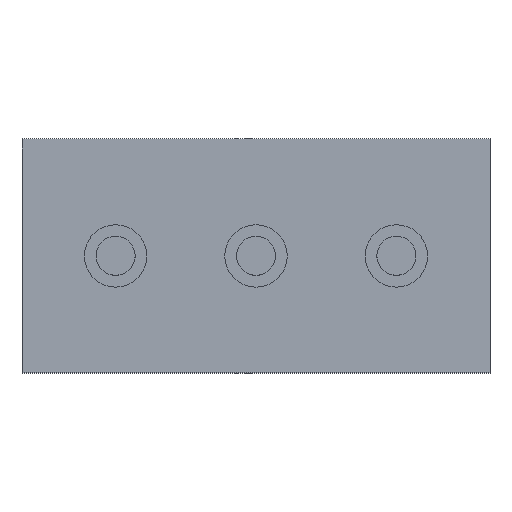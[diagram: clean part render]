
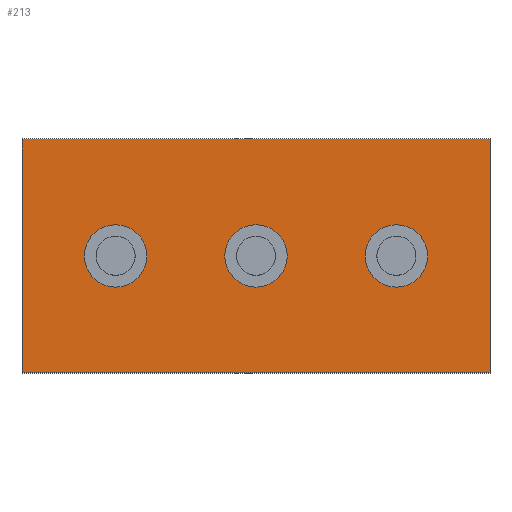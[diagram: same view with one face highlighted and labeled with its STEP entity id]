
A CAD part, top view. The second image highlights one B-rep face of the part: STEP entity #213.
In plain terms, the highlighted planar face has unit normal (0, 0, 1).
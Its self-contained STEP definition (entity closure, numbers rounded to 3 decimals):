
#24 = VERTEX_POINT('',#25);
#25 = CARTESIAN_POINT('',(0.,0.,6.));
#32 = PLANE('',#33);
#33 = AXIS2_PLACEMENT_3D('',#34,#35,#36);
#34 = CARTESIAN_POINT('',(0.,0.,0.));
#35 = DIRECTION('',(1.,0.,-0.));
#36 = DIRECTION('',(0.,0.,1.));
#44 = PLANE('',#45);
#45 = AXIS2_PLACEMENT_3D('',#46,#47,#48);
#46 = CARTESIAN_POINT('',(0.,0.,0.));
#47 = DIRECTION('',(-0.,1.,0.));
#48 = DIRECTION('',(0.,0.,1.));
#85 = VERTEX_POINT('',#86);
#86 = CARTESIAN_POINT('',(0.,30.,6.));
#100 = PLANE('',#101);
#101 = AXIS2_PLACEMENT_3D('',#102,#103,#104);
#102 = CARTESIAN_POINT('',(0.,30.,0.));
#103 = DIRECTION('',(-0.,1.,0.));
#104 = DIRECTION('',(0.,0.,1.));
#112 = EDGE_CURVE('',#24,#85,#113,.T.);
#113 = SURFACE_CURVE('',#114,(#118,#125),.PCURVE_S1.);
#114 = LINE('',#115,#116);
#115 = CARTESIAN_POINT('',(0.,0.,6.));
#116 = VECTOR('',#117,1.);
#117 = DIRECTION('',(-0.,1.,0.));
#118 = PCURVE('',#32,#119);
#119 = DEFINITIONAL_REPRESENTATION('',(#120),#124);
#120 = LINE('',#121,#122);
#121 = CARTESIAN_POINT('',(6.,0.));
#122 = VECTOR('',#123,1.);
#123 = DIRECTION('',(0.,-1.));
#124 = ( GEOMETRIC_REPRESENTATION_CONTEXT(2) 
PARAMETRIC_REPRESENTATION_CONTEXT() REPRESENTATION_CONTEXT('2D SPACE',''
  ) );
#125 = PCURVE('',#126,#131);
#126 = PLANE('',#127);
#127 = AXIS2_PLACEMENT_3D('',#128,#129,#130);
#128 = CARTESIAN_POINT('',(0.,0.,6.));
#129 = DIRECTION('',(0.,0.,1.));
#130 = DIRECTION('',(1.,0.,-0.));
#131 = DEFINITIONAL_REPRESENTATION('',(#132),#136);
#132 = LINE('',#133,#134);
#133 = CARTESIAN_POINT('',(0.,0.));
#134 = VECTOR('',#135,1.);
#135 = DIRECTION('',(0.,1.));
#136 = ( GEOMETRIC_REPRESENTATION_CONTEXT(2) 
PARAMETRIC_REPRESENTATION_CONTEXT() REPRESENTATION_CONTEXT('2D SPACE',''
  ) );
#165 = EDGE_CURVE('',#24,#166,#168,.T.);
#166 = VERTEX_POINT('',#167);
#167 = CARTESIAN_POINT('',(60.,0.,6.));
#168 = SURFACE_CURVE('',#169,(#173,#180),.PCURVE_S1.);
#169 = LINE('',#170,#171);
#170 = CARTESIAN_POINT('',(0.,0.,6.));
#171 = VECTOR('',#172,1.);
#172 = DIRECTION('',(1.,0.,-0.));
#173 = PCURVE('',#44,#174);
#174 = DEFINITIONAL_REPRESENTATION('',(#175),#179);
#175 = LINE('',#176,#177);
#176 = CARTESIAN_POINT('',(6.,0.));
#177 = VECTOR('',#178,1.);
#178 = DIRECTION('',(0.,1.));
#179 = ( GEOMETRIC_REPRESENTATION_CONTEXT(2) 
PARAMETRIC_REPRESENTATION_CONTEXT() REPRESENTATION_CONTEXT('2D SPACE',''
  ) );
#180 = PCURVE('',#126,#181);
#181 = DEFINITIONAL_REPRESENTATION('',(#182),#186);
#182 = LINE('',#183,#184);
#183 = CARTESIAN_POINT('',(0.,0.));
#184 = VECTOR('',#185,1.);
#185 = DIRECTION('',(1.,0.));
#186 = ( GEOMETRIC_REPRESENTATION_CONTEXT(2) 
PARAMETRIC_REPRESENTATION_CONTEXT() REPRESENTATION_CONTEXT('2D SPACE',''
  ) );
#202 = PLANE('',#203);
#203 = AXIS2_PLACEMENT_3D('',#204,#205,#206);
#204 = CARTESIAN_POINT('',(60.,0.,0.));
#205 = DIRECTION('',(1.,0.,-0.));
#206 = DIRECTION('',(0.,0.,1.));
#213 = ADVANCED_FACE('',(#214,#262,#293,#324),#126,.T.);
#214 = FACE_BOUND('',#215,.T.);
#215 = EDGE_LOOP('',(#216,#217,#218,#241));
#216 = ORIENTED_EDGE('',*,*,#112,.F.);
#217 = ORIENTED_EDGE('',*,*,#165,.T.);
#218 = ORIENTED_EDGE('',*,*,#219,.T.);
#219 = EDGE_CURVE('',#166,#220,#222,.T.);
#220 = VERTEX_POINT('',#221);
#221 = CARTESIAN_POINT('',(60.,30.,6.));
#222 = SURFACE_CURVE('',#223,(#227,#234),.PCURVE_S1.);
#223 = LINE('',#224,#225);
#224 = CARTESIAN_POINT('',(60.,0.,6.));
#225 = VECTOR('',#226,1.);
#226 = DIRECTION('',(-0.,1.,0.));
#227 = PCURVE('',#126,#228);
#228 = DEFINITIONAL_REPRESENTATION('',(#229),#233);
#229 = LINE('',#230,#231);
#230 = CARTESIAN_POINT('',(60.,0.));
#231 = VECTOR('',#232,1.);
#232 = DIRECTION('',(0.,1.));
#233 = ( GEOMETRIC_REPRESENTATION_CONTEXT(2) 
PARAMETRIC_REPRESENTATION_CONTEXT() REPRESENTATION_CONTEXT('2D SPACE',''
  ) );
#234 = PCURVE('',#202,#235);
#235 = DEFINITIONAL_REPRESENTATION('',(#236),#240);
#236 = LINE('',#237,#238);
#237 = CARTESIAN_POINT('',(6.,0.));
#238 = VECTOR('',#239,1.);
#239 = DIRECTION('',(0.,-1.));
#240 = ( GEOMETRIC_REPRESENTATION_CONTEXT(2) 
PARAMETRIC_REPRESENTATION_CONTEXT() REPRESENTATION_CONTEXT('2D SPACE',''
  ) );
#241 = ORIENTED_EDGE('',*,*,#242,.F.);
#242 = EDGE_CURVE('',#85,#220,#243,.T.);
#243 = SURFACE_CURVE('',#244,(#248,#255),.PCURVE_S1.);
#244 = LINE('',#245,#246);
#245 = CARTESIAN_POINT('',(0.,30.,6.));
#246 = VECTOR('',#247,1.);
#247 = DIRECTION('',(1.,0.,-0.));
#248 = PCURVE('',#126,#249);
#249 = DEFINITIONAL_REPRESENTATION('',(#250),#254);
#250 = LINE('',#251,#252);
#251 = CARTESIAN_POINT('',(0.,30.));
#252 = VECTOR('',#253,1.);
#253 = DIRECTION('',(1.,0.));
#254 = ( GEOMETRIC_REPRESENTATION_CONTEXT(2) 
PARAMETRIC_REPRESENTATION_CONTEXT() REPRESENTATION_CONTEXT('2D SPACE',''
  ) );
#255 = PCURVE('',#100,#256);
#256 = DEFINITIONAL_REPRESENTATION('',(#257),#261);
#257 = LINE('',#258,#259);
#258 = CARTESIAN_POINT('',(6.,0.));
#259 = VECTOR('',#260,1.);
#260 = DIRECTION('',(0.,1.));
#261 = ( GEOMETRIC_REPRESENTATION_CONTEXT(2) 
PARAMETRIC_REPRESENTATION_CONTEXT() REPRESENTATION_CONTEXT('2D SPACE',''
  ) );
#262 = FACE_BOUND('',#263,.T.);
#263 = EDGE_LOOP('',(#264));
#264 = ORIENTED_EDGE('',*,*,#265,.F.);
#265 = EDGE_CURVE('',#266,#266,#268,.T.);
#266 = VERTEX_POINT('',#267);
#267 = CARTESIAN_POINT('',(16.,15.,6.));
#268 = SURFACE_CURVE('',#269,(#274,#281),.PCURVE_S1.);
#269 = CIRCLE('',#270,4.);
#270 = AXIS2_PLACEMENT_3D('',#271,#272,#273);
#271 = CARTESIAN_POINT('',(12.,15.,6.));
#272 = DIRECTION('',(0.,0.,1.));
#273 = DIRECTION('',(1.,0.,-0.));
#274 = PCURVE('',#126,#275);
#275 = DEFINITIONAL_REPRESENTATION('',(#276),#280);
#276 = CIRCLE('',#277,4.);
#277 = AXIS2_PLACEMENT_2D('',#278,#279);
#278 = CARTESIAN_POINT('',(12.,15.));
#279 = DIRECTION('',(1.,0.));
#280 = ( GEOMETRIC_REPRESENTATION_CONTEXT(2) 
PARAMETRIC_REPRESENTATION_CONTEXT() REPRESENTATION_CONTEXT('2D SPACE',''
  ) );
#281 = PCURVE('',#282,#287);
#282 = CYLINDRICAL_SURFACE('',#283,4.);
#283 = AXIS2_PLACEMENT_3D('',#284,#285,#286);
#284 = CARTESIAN_POINT('',(12.,15.,6.));
#285 = DIRECTION('',(0.,0.,1.));
#286 = DIRECTION('',(1.,0.,-0.));
#287 = DEFINITIONAL_REPRESENTATION('',(#288),#292);
#288 = LINE('',#289,#290);
#289 = CARTESIAN_POINT('',(0.,0.));
#290 = VECTOR('',#291,1.);
#291 = DIRECTION('',(1.,0.));
#292 = ( GEOMETRIC_REPRESENTATION_CONTEXT(2) 
PARAMETRIC_REPRESENTATION_CONTEXT() REPRESENTATION_CONTEXT('2D SPACE',''
  ) );
#293 = FACE_BOUND('',#294,.T.);
#294 = EDGE_LOOP('',(#295));
#295 = ORIENTED_EDGE('',*,*,#296,.F.);
#296 = EDGE_CURVE('',#297,#297,#299,.T.);
#297 = VERTEX_POINT('',#298);
#298 = CARTESIAN_POINT('',(34.,15.,6.));
#299 = SURFACE_CURVE('',#300,(#305,#312),.PCURVE_S1.);
#300 = CIRCLE('',#301,4.);
#301 = AXIS2_PLACEMENT_3D('',#302,#303,#304);
#302 = CARTESIAN_POINT('',(30.,15.,6.));
#303 = DIRECTION('',(0.,0.,1.));
#304 = DIRECTION('',(1.,0.,-0.));
#305 = PCURVE('',#126,#306);
#306 = DEFINITIONAL_REPRESENTATION('',(#307),#311);
#307 = CIRCLE('',#308,4.);
#308 = AXIS2_PLACEMENT_2D('',#309,#310);
#309 = CARTESIAN_POINT('',(30.,15.));
#310 = DIRECTION('',(1.,0.));
#311 = ( GEOMETRIC_REPRESENTATION_CONTEXT(2) 
PARAMETRIC_REPRESENTATION_CONTEXT() REPRESENTATION_CONTEXT('2D SPACE',''
  ) );
#312 = PCURVE('',#313,#318);
#313 = CYLINDRICAL_SURFACE('',#314,4.);
#314 = AXIS2_PLACEMENT_3D('',#315,#316,#317);
#315 = CARTESIAN_POINT('',(30.,15.,6.));
#316 = DIRECTION('',(0.,0.,1.));
#317 = DIRECTION('',(1.,0.,-0.));
#318 = DEFINITIONAL_REPRESENTATION('',(#319),#323);
#319 = LINE('',#320,#321);
#320 = CARTESIAN_POINT('',(0.,0.));
#321 = VECTOR('',#322,1.);
#322 = DIRECTION('',(1.,0.));
#323 = ( GEOMETRIC_REPRESENTATION_CONTEXT(2) 
PARAMETRIC_REPRESENTATION_CONTEXT() REPRESENTATION_CONTEXT('2D SPACE',''
  ) );
#324 = FACE_BOUND('',#325,.T.);
#325 = EDGE_LOOP('',(#326));
#326 = ORIENTED_EDGE('',*,*,#327,.F.);
#327 = EDGE_CURVE('',#328,#328,#330,.T.);
#328 = VERTEX_POINT('',#329);
#329 = CARTESIAN_POINT('',(52.,15.,6.));
#330 = SURFACE_CURVE('',#331,(#336,#343),.PCURVE_S1.);
#331 = CIRCLE('',#332,4.);
#332 = AXIS2_PLACEMENT_3D('',#333,#334,#335);
#333 = CARTESIAN_POINT('',(48.,15.,6.));
#334 = DIRECTION('',(0.,0.,1.));
#335 = DIRECTION('',(1.,0.,-0.));
#336 = PCURVE('',#126,#337);
#337 = DEFINITIONAL_REPRESENTATION('',(#338),#342);
#338 = CIRCLE('',#339,4.);
#339 = AXIS2_PLACEMENT_2D('',#340,#341);
#340 = CARTESIAN_POINT('',(48.,15.));
#341 = DIRECTION('',(1.,0.));
#342 = ( GEOMETRIC_REPRESENTATION_CONTEXT(2) 
PARAMETRIC_REPRESENTATION_CONTEXT() REPRESENTATION_CONTEXT('2D SPACE',''
  ) );
#343 = PCURVE('',#344,#349);
#344 = CYLINDRICAL_SURFACE('',#345,4.);
#345 = AXIS2_PLACEMENT_3D('',#346,#347,#348);
#346 = CARTESIAN_POINT('',(48.,15.,6.));
#347 = DIRECTION('',(0.,0.,1.));
#348 = DIRECTION('',(1.,0.,-0.));
#349 = DEFINITIONAL_REPRESENTATION('',(#350),#354);
#350 = LINE('',#351,#352);
#351 = CARTESIAN_POINT('',(0.,0.));
#352 = VECTOR('',#353,1.);
#353 = DIRECTION('',(1.,0.));
#354 = ( GEOMETRIC_REPRESENTATION_CONTEXT(2) 
PARAMETRIC_REPRESENTATION_CONTEXT() REPRESENTATION_CONTEXT('2D SPACE',''
  ) );
